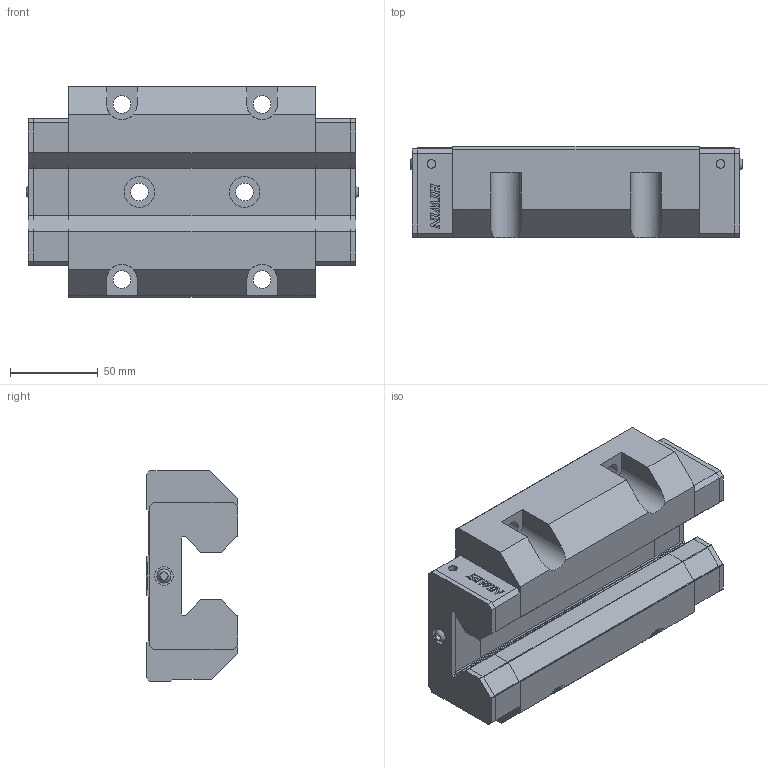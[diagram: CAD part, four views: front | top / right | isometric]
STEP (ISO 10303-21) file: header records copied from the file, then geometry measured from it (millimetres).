
FILE_DESCRIPTION(/* description */ (''),/* implementation_level */ '2;1');
FILE_NAME(/* name */ 'URW45HCZAH_GW202603049634.stp',/* time_stamp */ '2026-03-30T22:58:38+08:00',/* author */ ('user'),/* organization */ (''),/* preprocessor_version */ 'ST-DEVELOPER v20.1',/* originating_system */ 'Autodesk Inventor 2026',/* authorisation */ '');
FILE_SCHEMA (('AUTOMOTIVE_DESIGN { 1 0 10303 214 3 1 1 }'));
Products named in the file (3): URW45HCZAH_GW202603049634; URW45H_左封; 31010069
Assembly tree (3 placements, depth 2):
  URW45HCZAH_GW202603049634
    URW45H_左封
    31010069  x2
Bounding box: 189.4 x 52 x 120 mm (x, y, z)
Volume: 780451.7 mm3; surface area: 115425.9 mm2
Topology: 7 solids, 7 shells, 534 faces, 1476 edges, 982 vertices
Faces by surface type: plane 392, cylinder 140, bspline 2
Full cylindrical faces by diameter (mm): 1.5 x2, 4.917 x4, 6 x2, 6.4 x2, 8 x2, 10.106 x6, 10.3 x2, 10.5 x2, 17.5 x2
Entity records: 16802 total; most frequent: CARTESIAN_POINT 2968, ORIENTED_EDGE 2900, DIRECTION 2788, EDGE_CURVE 1450, LINE 1164, VECTOR 1164, VERTEX_POINT 965, AXIS2_PLACEMENT_3D 812
